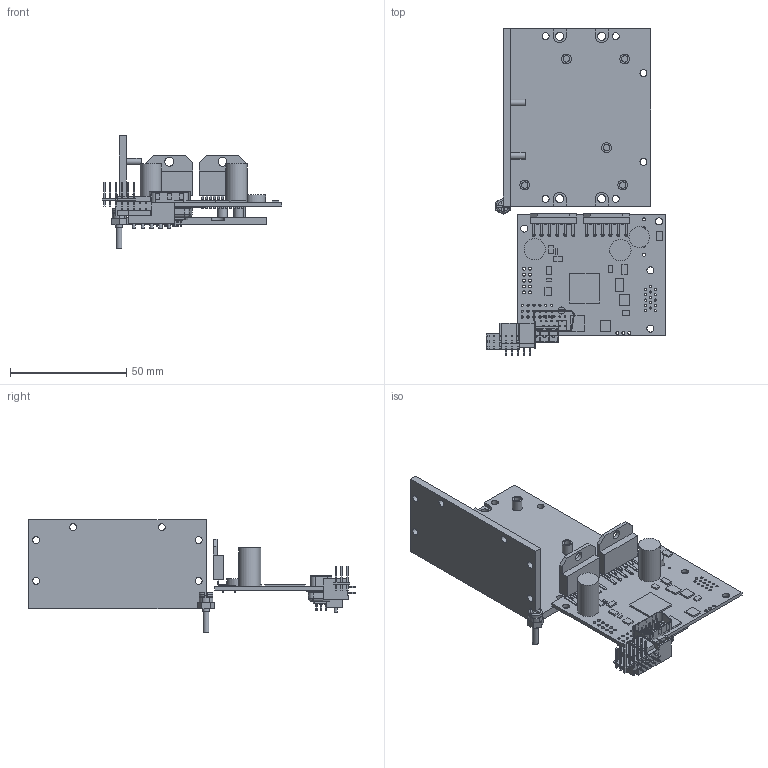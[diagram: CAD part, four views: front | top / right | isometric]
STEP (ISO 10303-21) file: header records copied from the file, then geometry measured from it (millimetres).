
FILE_DESCRIPTION(/* description */ ('Alibre Inc.'),/* implementation_level */ '2;1');
FILE_NAME(/* name */ 'export0',/* time_stamp */ '2008-04-01T13:51:22-07:00',/* author */ (''),/* organization */ (''),/* preprocessor_version */ 'ST-DEVELOPER v10',/* originating_system */ 'Alibre',/* authorisation */ '');
FILE_SCHEMA (('ALIBRE_SCHEMA','CONFIG_CONTROL_DESIGN'));
Length unit declared in the file: inch
Products named in the file (17): ID_1
Bounding box: 77.03 x 140.3 x 48.26 mm (x, y, z)
Volume: 36797.6 mm3; surface area: 35940.6 mm2
Topology: 54 solids, 54 shells, 1549 faces, 3762 edges, 2485 vertices
Faces by surface type: plane 1074, cylinder 368, bspline 54, torus 50, revolution 3
Full cylindrical faces by diameter (mm): 0.013 x1, 0.965 x33, 1.27 x18, 1.346 x22, 1.4 x10, 2.489 x1, 2.616 x1, 2.743 x5, 2.819 x2, 2.87 x2, 2.997 x12, 3.048 x6, 3.505 x4, 3.81 x2, 4.216 x5, 5.842 x1, 5.944 x1, 8.875 x1, 9.144 x2
Entity records: 103492 total; most frequent: CARTESIAN_POINT 35908, ORIENTED_EDGE 9378, DIRECTION 8424, EDGE_CURVE 4689, VECTOR 3977, LINE 3742, PERSISTANTTOPOLOGYATTRIBUTE 3378, VERTEX_POINT 3164
